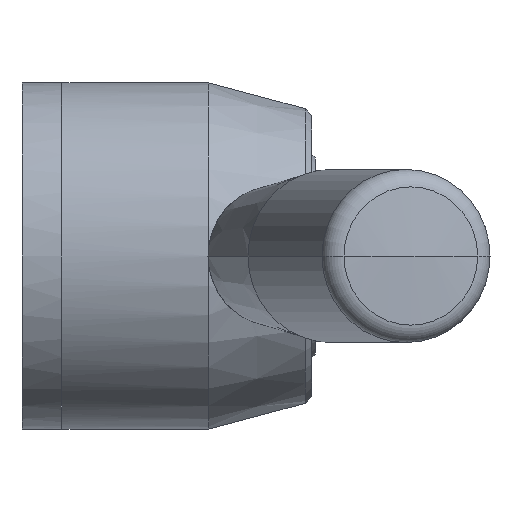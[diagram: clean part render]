
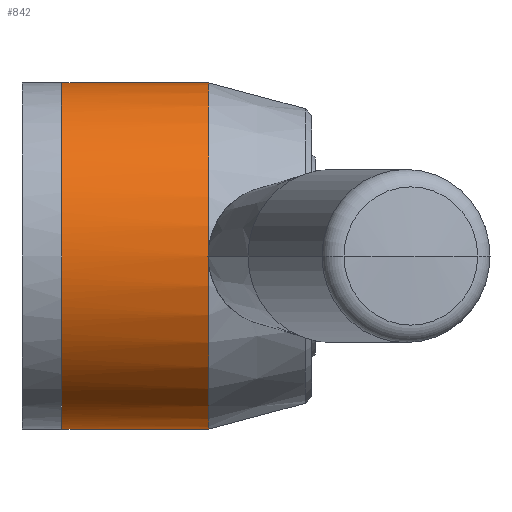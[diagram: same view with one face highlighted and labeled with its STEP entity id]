
A CAD part, front view. The second image highlights one B-rep face of the part: STEP entity #842.
In plain terms, the highlighted cylindrical face has radius 26 mm (diameter 52 mm), a partial arc.
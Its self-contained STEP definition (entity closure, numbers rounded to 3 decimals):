
#18 = VECTOR ( 'NONE', #2433, 1000. ) ;
#77 = CARTESIAN_POINT ( 'NONE',  ( 0., 0., 0. ) ) ;
#78 = CARTESIAN_POINT ( 'NONE',  ( 0., 0., -26. ) ) ;
#81 = CYLINDRICAL_SURFACE ( 'NONE', #1955, 26. ) ;
#333 = EDGE_CURVE ( 'NONE', #900, #840, #2101, .T. ) ;
#509 = CIRCLE ( 'NONE', #2088, 26. ) ;
#606 = DIRECTION ( 'NONE',  ( -1., 0., 0. ) ) ;
#734 = DIRECTION ( 'NONE',  ( 0., 0., 1. ) ) ;
#840 = VERTEX_POINT ( 'NONE', #2024 ) ;
#842 = ADVANCED_FACE ( 'NONE', ( #1751 ), #81, .T. ) ;
#900 = VERTEX_POINT ( 'NONE', #1388 ) ;
#974 = EDGE_CURVE ( 'NONE', #1588, #900, #509, .T. ) ;
#980 = EDGE_LOOP ( 'NONE', ( #2566, #1348, #1286, #2208 ) ) ;
#1056 = EDGE_CURVE ( 'NONE', #1937, #840, #1139, .T. ) ;
#1139 = CIRCLE ( 'NONE', #1503, 26. ) ;
#1286 = ORIENTED_EDGE ( 'NONE', *, *, #333, .T. ) ;
#1348 = ORIENTED_EDGE ( 'NONE', *, *, #974, .T. ) ;
#1363 = VECTOR ( 'NONE', #2266, 1000. ) ;
#1388 = CARTESIAN_POINT ( 'NONE',  ( 22., 0., 26. ) ) ;
#1405 = DIRECTION ( 'NONE',  ( -1., 0., 0. ) ) ;
#1503 = AXIS2_PLACEMENT_3D ( 'NONE', #77, #1405, #734 ) ;
#1578 = DIRECTION ( 'NONE',  ( -1., 0., 0. ) ) ;
#1588 = VERTEX_POINT ( 'NONE', #2386 ) ;
#1696 = EDGE_CURVE ( 'NONE', #1588, #1937, #2241, .T. ) ;
#1751 = FACE_OUTER_BOUND ( 'NONE', #980, .T. ) ;
#1937 = VERTEX_POINT ( 'NONE', #1946 ) ;
#1946 = CARTESIAN_POINT ( 'NONE',  ( 0., 0., -26. ) ) ;
#1955 = AXIS2_PLACEMENT_3D ( 'NONE', #2668, #1578, #2437 ) ;
#1967 = CARTESIAN_POINT ( 'NONE',  ( 22., 0., 0. ) ) ;
#2024 = CARTESIAN_POINT ( 'NONE',  ( 0., 0., 26. ) ) ;
#2088 = AXIS2_PLACEMENT_3D ( 'NONE', #1967, #606, #2201 ) ;
#2101 = LINE ( 'NONE', #2689, #1363 ) ;
#2201 = DIRECTION ( 'NONE',  ( 0., 0., 1. ) ) ;
#2208 = ORIENTED_EDGE ( 'NONE', *, *, #1056, .F. ) ;
#2241 = LINE ( 'NONE', #78, #18 ) ;
#2266 = DIRECTION ( 'NONE',  ( -1., 0., 0. ) ) ;
#2386 = CARTESIAN_POINT ( 'NONE',  ( 22., 0., -26. ) ) ;
#2433 = DIRECTION ( 'NONE',  ( -1., 0., 0. ) ) ;
#2437 = DIRECTION ( 'NONE',  ( 0., 0., 1. ) ) ;
#2566 = ORIENTED_EDGE ( 'NONE', *, *, #1696, .F. ) ;
#2668 = CARTESIAN_POINT ( 'NONE',  ( 0., 0., 0. ) ) ;
#2689 = CARTESIAN_POINT ( 'NONE',  ( 0., 0., 26. ) ) ;
